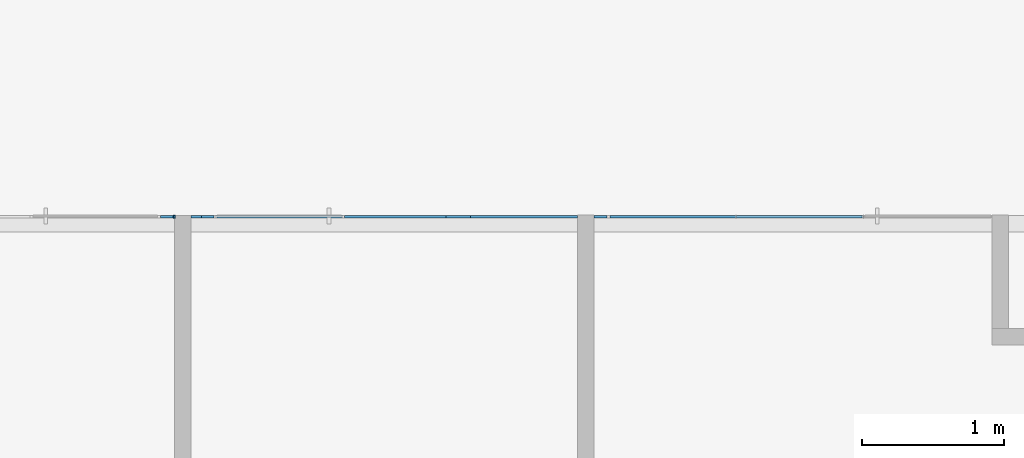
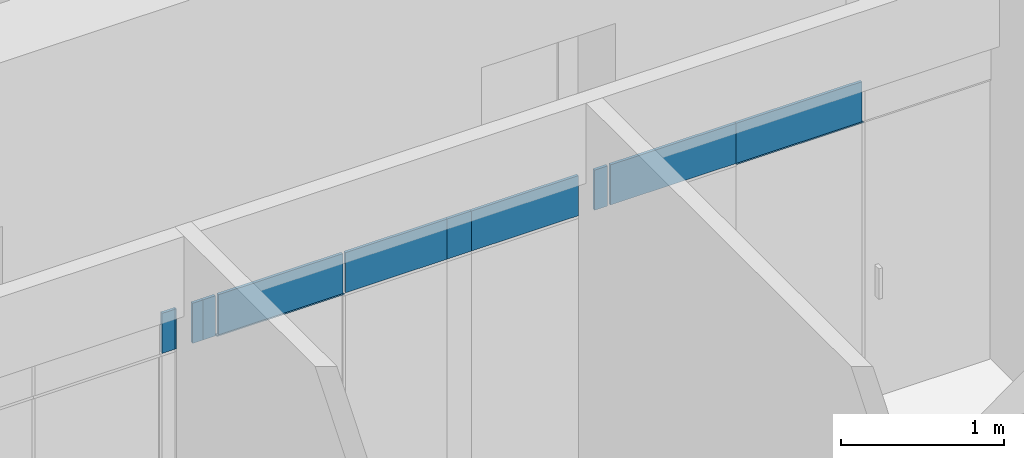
# One storey, part 41 of 73: 13 plates, 3 elements without a shape of their own.
"""IFC2X3 building model written with IfcOpenShell, lengths in millimetres."""

import ifcopenshell
import ifcopenshell.guid

model = None  # the IFC model being written
_history = None  # IfcOwnerHistory: only IFC2X3 demands one
_inside = {}  # id of a spatial element -> (the spatial element, [elements in it])
_under = {}  # id of a project, library or spatial element -> (it, [spatial elements below it])
_declared = {}  # id of a project -> (the project, [libraries it declares])
_typed = {}  # id of a type object -> (the type object, [elements of that type])
_made_of = {}  # id of a material, layer set ... -> (it, [elements and type objects made of it])


def new_model(schema):
    """Start an empty IFC model of exactly this schema.

    Asked for "IFC4X3", IfcOpenShell would pick the latest addendum, in which some entities
    have other attributes; the version numbers below select the first issue.
    IFC2X3 requires an IfcOwnerHistory on every rooted entity: one is made here for all.
    """
    global model, _history
    if schema == "IFC4X3":
        model = ifcopenshell.file(schema_version=(4, 3, 0, 0))
    else:
        model = ifcopenshell.file(schema=schema)
    _inside.clear()
    _under.clear()
    _declared.clear()
    _typed.clear()
    _made_of.clear()
    _history = None
    if model.schema == "IFC2X3":
        org = make("IfcOrganization", Name="unknown")
        user = make(
            "IfcPersonAndOrganization",
            ThePerson=make("IfcPerson", FamilyName="unknown"),
            TheOrganization=org,
        )
        app = make(
            "IfcApplication",
            ApplicationDeveloper=org,
            Version="unknown",
            ApplicationFullName="unknown",
            ApplicationIdentifier="unknown",
        )
        _history = make(
            "IfcOwnerHistory",
            OwningUser=user,
            OwningApplication=app,
            ChangeAction="ADDED",
            CreationDate=0,
        )
    return model


def make(cls, **values):
    """One entity of the class cls with the attributes given. An attribute that is None is left unset."""
    return model.create_entity(
        cls, **{name: value for name, value in values.items() if value is not None}
    )


def entity(cls, *values):
    """Any entity or typed value of the class cls, its attributes in the order of the schema. None: left unset."""
    e = model.create_entity(cls)
    for i, value in enumerate(values):
        if value is not None:
            e[i] = value
    return e


def rooted(cls, **values):
    """An entity with a GlobalId (a new one), such as an element, a storey or a relation."""
    return make(cls, GlobalId=ifcopenshell.guid.new(), OwnerHistory=_history, **values)


def si_unit(unit_type, name, prefix=None):
    """IfcSIUnit, for example si_unit("LENGTHUNIT", "METRE", prefix="MILLI")."""
    return make("IfcSIUnit", UnitType=unit_type, Prefix=prefix, Name=name)


def converted_unit(unit_type, name, factor, base, dimensions=None, offset=None):
    """IfcConversionBasedUnit, such as the inch: factor (a typed value) times the base unit."""
    return make(
        "IfcConversionBasedUnit"
        if offset is None
        else "IfcConversionBasedUnitWithOffset",
        ConversionOffset=offset,
        Dimensions=None
        if dimensions is None
        else entity("IfcDimensionalExponents", *dimensions),
        UnitType=unit_type,
        Name=name,
        ConversionFactor=make(
            "IfcMeasureWithUnit", ValueComponent=factor, UnitComponent=base
        ),
    )


def derived_unit(unit_type, elements):
    """IfcDerivedUnit: a product of units, each with its exponent."""
    return make(
        "IfcDerivedUnit",
        Elements=[
            make("IfcDerivedUnitElement", Unit=unit, Exponent=power)
            for unit, power in elements
        ],
        UnitType=unit_type,
    )


def assignment(units):
    """IfcUnitAssignment: the units of a project."""
    return None if units is None else make("IfcUnitAssignment", Units=units)


def point(xyz):
    """IfcCartesianPoint."""
    return None if xyz is None else make("IfcCartesianPoint", Coordinates=xyz)


def direction(xyz):
    """IfcDirection."""
    return None if xyz is None else make("IfcDirection", DirectionRatios=xyz)


def frame(location, z_axis=None, x_axis=None):
    """IfcAxis2Placement3D, a coordinate frame: its origin and axes. An axis left out is left unset."""
    return make(
        "IfcAxis2Placement3D",
        Location=point(location),
        Axis=direction(z_axis),
        RefDirection=direction(x_axis),
    )


def frame_2d(location, x_axis=None):
    """IfcAxis2Placement2D, a coordinate frame in the plane: its origin and x axis."""
    return make(
        "IfcAxis2Placement2D", Location=point(location), RefDirection=direction(x_axis)
    )


def origin():
    """The frame at (0, 0, 0) with its axes left unset."""
    return frame((0.0, 0.0, 0.0))


def origin_2d_with_axis():
    """The frame at (0, 0) in the plane with the x axis (1, 0) written out."""
    return frame_2d((0.0, 0.0), x_axis=(1.0, 0.0))


def place(relative_to, where):
    """IfcLocalPlacement: puts the frame where relative to a parent placement (None: the world)."""
    return make(
        "IfcLocalPlacement", PlacementRelTo=relative_to, RelativePlacement=where
    )


def context(
    kind, dimensions, precision=None, world=None, true_north=None, identifier=None
):
    """IfcGeometricRepresentationContext, for example the 3D "Model" context."""
    return make(
        "IfcGeometricRepresentationContext",
        ContextIdentifier=identifier,
        ContextType=kind,
        CoordinateSpaceDimension=dimensions,
        Precision=precision,
        WorldCoordinateSystem=world,
        TrueNorth=true_north,
    )


def subcontext(parent, identifier, kind, view, scale=None):
    """IfcGeometricRepresentationSubContext, for example "Body" below "Model"."""
    return make(
        "IfcGeometricRepresentationSubContext",
        ContextIdentifier=identifier,
        ContextType=kind,
        ParentContext=parent,
        TargetScale=scale,
        TargetView=view,
    )


def project(units=None, contexts=None):
    """IfcProject with its units and contexts."""
    return rooted(
        "IfcProject",
        Name="project",
        RepresentationContexts=contexts,
        UnitsInContext=assignment(units),
    )


def spatial(cls, under=None, at=None, **own):
    """A site, building, storey or space (cls), placed at a placement, below another one or the project."""
    s = rooted(cls, ObjectPlacement=at, **own)
    if under is not None:
        _under.setdefault(under.id(), (under, []))[1].append(s)
    return s


def profile(cls, at=None, kind="AREA", **sizes):
    """A parametric profile (cls). Its sizes go by their IFC names, for example OverallWidth=200.0."""
    return make(cls, ProfileType=kind, Position=at, **sizes)


def rectangle(**sizes):
    """IfcRectangleProfileDef."""
    return profile("IfcRectangleProfileDef", **sizes)


def extrude(swept, where, along, depth):
    """IfcExtrudedAreaSolid: the profile swept, set in the frame where, extruded along a direction by depth."""
    return make(
        "IfcExtrudedAreaSolid",
        SweptArea=swept,
        Position=where,
        ExtrudedDirection=direction(along),
        Depth=depth,
    )


def shape(context_of_items, identifier, shape_type, items):
    """IfcShapeRepresentation: the items that make up one representation, for example the "Body"."""
    return make(
        "IfcShapeRepresentation",
        ContextOfItems=context_of_items,
        RepresentationIdentifier=identifier,
        RepresentationType=shape_type,
        Items=items,
    )


def source(mapping_origin, context_of_items, identifier, shape_type, items):
    """IfcRepresentationMap: a shape defined once, which mapped items show again and again."""
    return make(
        "IfcRepresentationMap",
        MappingOrigin=mapping_origin,
        MappedRepresentation=shape(context_of_items, identifier, shape_type, items),
    )


def transform(
    local_origin,
    x_axis=None,
    y_axis=None,
    z_axis=None,
    scale=None,
    scale2=None,
    scale3=None,
    uniform=True,
):
    """IfcCartesianTransformationOperator3D, or its non-uniform kind. x_axis, y_axis, z_axis: its Axis1, 2, 3."""
    if uniform:
        return make(
            "IfcCartesianTransformationOperator3D",
            Axis1=direction(x_axis),
            Axis2=direction(y_axis),
            LocalOrigin=point(local_origin),
            Scale=scale,
            Axis3=direction(z_axis),
        )
    return make(
        "IfcCartesianTransformationOperator3DnonUniform",
        Axis1=direction(x_axis),
        Axis2=direction(y_axis),
        LocalOrigin=point(local_origin),
        Scale=scale,
        Axis3=direction(z_axis),
        Scale2=scale2,
        Scale3=scale3,
    )


def mapped(mapping_source, mapping_target):
    """IfcMappedItem: shows the shape of a source again, moved by a transform."""
    return make(
        "IfcMappedItem", MappingSource=mapping_source, MappingTarget=mapping_target
    )


def material(Name=None, Category=None):
    """IfcMaterial."""
    return make("IfcMaterial", Name=Name, Category=Category)


def layer(
    of_material, thickness, ventilated=None, Name=None, Category=None, Priority=None
):
    """IfcMaterialLayer: one layer of a wall or slab, of a material (None: an air gap)."""
    return make(
        "IfcMaterialLayer",
        Material=of_material,
        LayerThickness=thickness,
        IsVentilated=ventilated,
        Name=Name,
        Category=Category,
        Priority=Priority,
    )


def layer_set(layers, Name=None):
    """IfcMaterialLayerSet."""
    return make("IfcMaterialLayerSet", MaterialLayers=layers, LayerSetName=Name)


def layer_usage(for_layer_set, set_direction, sense, offset, extent=None):
    """IfcMaterialLayerSetUsage: how a layer set lies in its element."""
    return make(
        "IfcMaterialLayerSetUsage",
        ForLayerSet=for_layer_set,
        LayerSetDirection=set_direction,
        DirectionSense=sense,
        OffsetFromReferenceLine=offset,
        ReferenceExtent=extent,
    )


def made_of(thing, what):
    """Note that an element or type object is made of a material, layer set ...; save() writes the relation."""
    if what is not None:
        _made_of.setdefault(what.id(), (what, []))[1].append(thing)
    return thing


def type_object(cls, material=None, **own):
    """A type object (cls), such as IfcWallType, which elements share."""
    return made_of(rooted(cls, **own), material)


def type_shapes(of_type, sources):
    """Give a type object the sources (RepresentationMaps) that its elements show as mapped items."""
    of_type.RepresentationMaps = sources


def element(
    cls,
    number,
    at=None,
    inside=None,
    cuts=None,
    type_object=None,
    material=None,
    context=None,
    identifier="Body",
    shape_type=None,
    held_by="IfcProductDefinitionShape",
    body=None,
    shapes=None,
    **own,
):
    """One element of the class cls, such as IfcWall. Its Tag is "e" and its number.

    at: its placement. inside: the storey or other place that contains it. cuts: it is an
    opening in that element (IfcRelVoidsElement). A single representation is given by context,
    identifier, shape_type and body (its items); several are given by shapes. held_by: the class
    of the entity that holds the representations. save() writes the other relations.
    """
    e = rooted(cls, Tag="e%d" % number, ObjectPlacement=at, **own)
    if body is not None:
        shapes = [shape(context, identifier, shape_type, body)]
    if shapes is not None:
        e.Representation = make(held_by, Representations=shapes)
    if inside is not None:
        _inside.setdefault(inside.id(), (inside, []))[1].append(e)
    if cuts is not None:
        rooted(
            "IfcRelVoidsElement", RelatingBuildingElement=cuts, RelatedOpeningElement=e
        )
    if type_object is not None:
        _typed.setdefault(type_object.id(), (type_object, []))[1].append(e)
    return made_of(e, material)


def aggregate(whole, parts):
    """IfcRelAggregates: a whole, such as a stair, and the parts it consists of."""
    return rooted("IfcRelAggregates", RelatingObject=whole, RelatedObjects=parts)


def save(model, path):
    """Write the relations noted so far, then the file.

    IfcRelAggregates (storeys below a building ...), IfcRelContainedInSpatialStructure (elements
    in a storey), IfcRelDefinesByType, IfcRelAssociatesMaterial and IfcRelDeclares: one each for
    every whole, place, type object, material and project.
    """
    for whole, parts in _under.values():
        aggregate(whole, parts)
    for where, things in _inside.values():
        rooted(
            "IfcRelContainedInSpatialStructure",
            RelatedElements=things,
            RelatingStructure=where,
        )
    for kind, things in _typed.values():
        rooted("IfcRelDefinesByType", RelatedObjects=things, RelatingType=kind)
    for what, things in _made_of.values():
        rooted("IfcRelAssociatesMaterial", RelatedObjects=things, RelatingMaterial=what)
    for by, libraries in _declared.values():
        rooted("IfcRelDeclares", RelatingContext=by, RelatedDefinitions=libraries)
    model.write(path)


model = new_model("IFC2X3")

# Units and contexts
model_context = context("Model", 3, precision=0.01, world=origin(), true_north=direction((6.12303176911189e-17, 1.0)))
body_context = subcontext(model_context, "Body", "Model", "MODEL_VIEW")
ifc_project = project(units=[si_unit("LENGTHUNIT", "METRE", prefix="MILLI"), si_unit("AREAUNIT", "SQUARE_METRE"), si_unit("VOLUMEUNIT", "CUBIC_METRE"), converted_unit("PLANEANGLEUNIT", "DEGREE", entity("IfcRatioMeasure", 0.0174532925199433), si_unit("PLANEANGLEUNIT", "RADIAN"), dimensions=[0, 0, 0, 0, 0, 0, 0]), si_unit("MASSUNIT", "GRAM", prefix="KILO"), derived_unit("MASSDENSITYUNIT", [(si_unit("MASSUNIT", "GRAM", prefix="KILO"), 1), (si_unit("LENGTHUNIT", "METRE"), -3)]), si_unit("TIMEUNIT", "SECOND"), si_unit("FREQUENCYUNIT", "HERTZ"), si_unit("THERMODYNAMICTEMPERATUREUNIT", "DEGREE_CELSIUS"), derived_unit("THERMALTRANSMITTANCEUNIT", [(si_unit("MASSUNIT", "GRAM", prefix="KILO"), 1), (si_unit("THERMODYNAMICTEMPERATUREUNIT", "KELVIN"), -1), (si_unit("TIMEUNIT", "SECOND"), -3)]), derived_unit("VOLUMETRICFLOWRATEUNIT", [(si_unit("LENGTHUNIT", "METRE"), 3), (si_unit("TIMEUNIT", "SECOND"), -1)]), si_unit("ELECTRICCURRENTUNIT", "AMPERE"), si_unit("ELECTRICVOLTAGEUNIT", "VOLT"), si_unit("POWERUNIT", "WATT"), si_unit("FORCEUNIT", "NEWTON", prefix="KILO"), si_unit("ILLUMINANCEUNIT", "LUX"), si_unit("LUMINOUSFLUXUNIT", "LUMEN"), si_unit("LUMINOUSINTENSITYUNIT", "CANDELA"), derived_unit("USERDEFINED", [(si_unit("MASSUNIT", "GRAM", prefix="KILO"), -1), (si_unit("LENGTHUNIT", "METRE"), -2), (si_unit("TIMEUNIT", "SECOND"), 3), (si_unit("LUMINOUSFLUXUNIT", "LUMEN"), 1)]), derived_unit("LINEARVELOCITYUNIT", [(si_unit("LENGTHUNIT", "METRE"), 1), (si_unit("TIMEUNIT", "SECOND"), -1)]), si_unit("PRESSUREUNIT", "PASCAL"), derived_unit("USERDEFINED", [(si_unit("LENGTHUNIT", "METRE"), -2), (si_unit("MASSUNIT", "GRAM", prefix="KILO"), 1), (si_unit("TIMEUNIT", "SECOND"), -2)])], contexts=[model_context])

# Site, building, storey
site_placement = place(None, frame((-151.875543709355, 2715.0, 0.0)))
site = spatial("IfcSite", under=ifc_project, at=site_placement, Name="Surface", CompositionType="ELEMENT")
building_placement = place(site_placement, origin())
building = spatial("IfcBuilding", under=site, at=building_placement, CompositionType="ELEMENT")
storey_placement = place(building_placement, frame((0.0, 0.0, 6730.43000000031)))
storey = spatial("IfcBuildingStorey", under=building, at=storey_placement, Name="3 korrus", CompositionType="ELEMENT", Elevation=6730.43000000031)

# Curtain wall, plates
curtain_wall_type_1 = type_object("IfcCurtainWallType", Name="Curtain Wall:Klaassein KLS-18", PredefinedType="NOTDEFINED")
curtain_wall_1_placement = place(storey_placement, frame((0.0, 0.0, -6730.43000000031)))
curtain_wall_1 = element("IfcCurtainWall", 1, at=curtain_wall_1_placement, inside=storey, type_object=curtain_wall_type_1, Name="Curtain Wall:Klaassein KLS-18", ObjectType="Curtain Wall:Klaassein KLS-18")
ifc_material = material(Name="<Unnamed>")
ifc_layer = layer(ifc_material, 20.0)
ifc_layer_set = layer_set([ifc_layer], Name="Curtain Wall:Klaassein KLS-01")
ifc_layer_usage_1 = layer_usage(ifc_layer_set, "AXIS3", "POSITIVE", 0.0)
plate_type_1 = type_object("IfcPlateType", Name="Glazed", PredefinedType="CURTAIN_PANEL", material=ifc_layer_set)
shared_shape_1 = source(origin(), body_context, "Body", "SweptSolid", [
    extrude(rectangle(XDim=20.0, YDim=900.000000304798, at=origin_2d_with_axis()), frame((0.0, 0.0, 0.0), z_axis=(0.0, 0.0, 1.0), x_axis=(0.0, 1.0, 0.0)), (0.0, 0.0, 1.0), 9.99999999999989),
])
type_shapes(plate_type_1, [shared_shape_1])
plate_1_placement = place(curtain_wall_1_placement, frame((16139.4201096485, 4355.04493399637, 8820.43000000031)))
plate_1 = element("IfcPlate", 2, at=plate_1_placement, type_object=plate_type_1, material=ifc_layer_usage_1, Name="System Panel:Glazed", ObjectType="Glazed", context=body_context, shape_type="MappedRepresentation", body=[
    mapped(shared_shape_1, transform((0.0, 0.0, 0.0), scale=1.0)),
])
ifc_layer_usage_2 = layer_usage(ifc_layer_set, "AXIS3", "POSITIVE", 0.0)
plate_type_2 = type_object("IfcPlateType", Name="Glazed", PredefinedType="CURTAIN_PANEL", material=ifc_layer_set)
shared_shape_2 = source(origin(), body_context, "Body", "SweptSolid", [
    extrude(rectangle(XDim=20.0, YDim=879.999999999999, at=origin_2d_with_axis()), frame((0.0, 0.0, 0.0), z_axis=(0.0, 0.0, 1.0), x_axis=(0.0, 1.0, 0.0)), (0.0, 0.0, 1.0), 299.999999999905),
])
type_shapes(plate_type_2, [shared_shape_2])
plate_2_placement = place(curtain_wall_1_placement, frame((16139.4201096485, 4355.04493399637, 8830.43000000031)))
plate_2 = element("IfcPlate", 3, at=plate_2_placement, type_object=plate_type_2, material=ifc_layer_usage_2, Name="System Panel:Glazed", ObjectType="Glazed", context=body_context, shape_type="MappedRepresentation", body=[
    mapped(shared_shape_2, transform((0.0, 0.0, 0.0), scale=1.0)),
])

curtain_wall_type_2 = type_object("IfcCurtainWallType", Name="Curtain Wall:Klaassein KLS-19", PredefinedType="NOTDEFINED")
curtain_wall_2_placement = place(storey_placement, frame((0.0, 0.0, -6730.43000000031)))
curtain_wall_2 = element("IfcCurtainWall", 4, at=curtain_wall_2_placement, inside=storey, type_object=curtain_wall_type_2, Name="Curtain Wall:Klaassein KLS-19", ObjectType="Curtain Wall:Klaassein KLS-19")
ifc_layer_usage_3 = layer_usage(ifc_layer_set, "AXIS3", "POSITIVE", 0.0)
plate_type_3 = type_object("IfcPlateType", Name="Glazed", PredefinedType="CURTAIN_PANEL", material=ifc_layer_set)
shared_shape_3 = source(origin(), body_context, "Body", "SweptSolid", [
    extrude(rectangle(XDim=20.0, YDim=899.000000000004, at=origin_2d_with_axis()), frame((0.0, 0.0, 0.0), z_axis=(0.0, 0.0, 1.0), x_axis=(0.0, 1.0, 0.0)), (0.0, 0.0, 1.0), 9.99999999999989),
])
type_shapes(plate_type_3, [shared_shape_3])
plate_3_placement = place(curtain_wall_2_placement, frame((19812.5647261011, 4355.04493399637, 8820.43000000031), z_axis=(0.0, 0.0, 1.0), x_axis=(-1.0, 0.0, 0.0)))
plate_3 = element("IfcPlate", 5, at=plate_3_placement, type_object=plate_type_3, material=ifc_layer_usage_3, Name="System Panel:Glazed", ObjectType="Glazed", context=body_context, shape_type="MappedRepresentation", body=[
    mapped(shared_shape_3, transform((0.0, 0.0, 0.0), scale=1.0)),
])
ifc_layer_usage_4 = layer_usage(ifc_layer_set, "AXIS3", "POSITIVE", 0.0)
plate_type_4 = type_object("IfcPlateType", Name="Glazed", PredefinedType="CURTAIN_PANEL", material=ifc_layer_set)
shared_shape_4 = source(origin(), body_context, "Body", "SweptSolid", [
    extrude(rectangle(XDim=299.999999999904, YDim=889.999999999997, at=frame_2d((0.0, -148.000000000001), x_axis=(1.0, 0.0))), frame((148.0, -10.0, 150.0), z_axis=(0.0, 1.0, 0.0), x_axis=(0.0, 0.0, 1.0)), (0.0, 0.0, 1.0), 20.0),
])
type_shapes(plate_type_4, [shared_shape_4])
plate_4_placement = place(curtain_wall_2_placement, frame((19807.0647261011, 4355.04493399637, 8830.43000000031), z_axis=(0.0, 0.0, 1.0), x_axis=(-1.0, 0.0, 0.0)))
plate_4 = element("IfcPlate", 6, at=plate_4_placement, type_object=plate_type_4, material=ifc_layer_usage_4, Name="System Panel:Glazed", ObjectType="Glazed", context=body_context, shape_type="MappedRepresentation", body=[
    mapped(shared_shape_4, transform((0.0, 0.0, 0.0), scale=1.0)),
])
ifc_layer_usage_5 = layer_usage(ifc_layer_set, "AXIS3", "POSITIVE", 0.0)
plate_type_5 = type_object("IfcPlateType", Name="Glazed", PredefinedType="CURTAIN_PANEL", material=ifc_layer_set)
shared_shape_5 = source(origin(), body_context, "Body", "SweptSolid", [
    extrude(rectangle(XDim=20.0, YDim=889.000000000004, at=origin_2d_with_axis()), frame((0.0, 0.0, 0.0), z_axis=(0.0, 0.0, 1.0), x_axis=(0.0, 1.0, 0.0)), (0.0, 0.0, 1.0), 299.999999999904),
])
type_shapes(plate_type_5, [shared_shape_5])
plate_5_placement = place(curtain_wall_2_placement, frame((18917.5647261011, 4355.04493399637, 8830.43000000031), z_axis=(0.0, 0.0, 1.0), x_axis=(-1.0, 0.0, 0.0)))
plate_5 = element("IfcPlate", 7, at=plate_5_placement, type_object=plate_type_5, material=ifc_layer_usage_5, Name="System Panel:Glazed", ObjectType="Glazed", context=body_context, shape_type="MappedRepresentation", body=[
    mapped(shared_shape_5, transform((0.0, 0.0, 0.0), scale=1.0)),
])
ifc_layer_usage_6 = layer_usage(ifc_layer_set, "AXIS3", "POSITIVE", 0.0)
plate_type_6 = type_object("IfcPlateType", Name="Glazed", PredefinedType="CURTAIN_PANEL", material=ifc_layer_set)
shared_shape_6 = source(origin(), body_context, "Body", "SweptSolid", [
    extrude(rectangle(XDim=20.0, YDim=91.9999996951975, at=origin_2d_with_axis()), frame((0.0, 0.0, 0.0), z_axis=(0.0, 0.0, 1.0), x_axis=(0.0, 1.0, 0.0)), (0.0, 0.0, 1.0), 299.999999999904),
])
type_shapes(plate_type_6, [shared_shape_6])
plate_6_placement = place(curtain_wall_2_placement, frame((18407.0647262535, 4355.04493399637, 8830.43000000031), z_axis=(0.0, 0.0, 1.0), x_axis=(-1.0, 0.0, 0.0)))
plate_6 = element("IfcPlate", 8, at=plate_6_placement, type_object=plate_type_6, material=ifc_layer_usage_6, Name="System Panel:Glazed", ObjectType="Glazed", context=body_context, shape_type="MappedRepresentation", body=[
    mapped(shared_shape_6, transform((0.0, 0.0, 0.0), scale=1.0)),
])
aggregate(curtain_wall_2, [plate_3, plate_4, plate_5, plate_6])

# Plate
ifc_layer_usage_7 = layer_usage(ifc_layer_set, "AXIS3", "POSITIVE", 0.0)
plate_type_7 = type_object("IfcPlateType", Name="Glazed", PredefinedType="CURTAIN_PANEL", material=ifc_layer_set)
shared_shape_7 = source(origin(), body_context, "Body", "SweptSolid", [
    extrude(rectangle(XDim=20.0, YDim=71.8553832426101, at=origin_2d_with_axis()), frame((0.0, 0.0, 0.0), z_axis=(0.0, 0.0, 1.0), x_axis=(0.0, 1.0, 0.0)), (0.0, 0.0, 1.0), 299.999999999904),
])
type_shapes(plate_type_7, [shared_shape_7])
plate_7_placement = place(curtain_wall_1_placement, frame((15553.4924180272, 4355.04493399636, 8830.43000000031)))
plate_7 = element("IfcPlate", 9, at=plate_7_placement, type_object=plate_type_7, material=ifc_layer_usage_7, Name="System Panel:Glazed", ObjectType="Glazed", context=body_context, shape_type="MappedRepresentation", body=[
    mapped(shared_shape_7, transform((0.0, 0.0, 0.0), scale=1.0)),
])

ifc_layer_usage_8 = layer_usage(ifc_layer_set, "AXIS3", "POSITIVE", 0.0)
plate_type_8 = type_object("IfcPlateType", Name="Glazed", PredefinedType="CURTAIN_PANEL", material=ifc_layer_set)
shared_shape_8 = source(origin(), body_context, "Body", "SweptSolid", [
    extrude(rectangle(XDim=20.0, YDim=89.999999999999, at=origin_2d_with_axis()), frame((0.0, 0.0, 0.0), z_axis=(0.0, 0.0, 1.0), x_axis=(0.0, 1.0, 0.0)), (0.0, 0.0, 1.0), 299.999999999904),
])
type_shapes(plate_type_8, [shared_shape_8])
plate_8_placement = place(curtain_wall_1_placement, frame((15634.4201096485, 4355.04493399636, 8830.43000000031)))
plate_8 = element("IfcPlate", 10, at=plate_8_placement, type_object=plate_type_8, material=ifc_layer_usage_8, Name="System Panel:Glazed", ObjectType="Glazed", context=body_context, shape_type="MappedRepresentation", body=[
    mapped(shared_shape_8, transform((0.0, 0.0, 0.0), scale=1.0)),
])

# Curtain wall, plate
curtain_wall_type_3 = type_object("IfcCurtainWallType", Name="Curtain Wall:Klaassein KLS-17", PredefinedType="NOTDEFINED")
curtain_wall_3_placement = place(storey_placement, frame((0.0, 0.0, -6730.43000000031)))
curtain_wall_3 = element("IfcCurtainWall", 11, at=curtain_wall_3_placement, inside=storey, type_object=curtain_wall_type_3, Name="Curtain Wall:Klaassein KLS-17", ObjectType="Curtain Wall:Klaassein KLS-17")
ifc_layer_usage_9 = layer_usage(ifc_layer_set, "AXIS3", "POSITIVE", 0.0)
plate_9_placement = place(curtain_wall_3_placement, frame((15346.5647264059, 4355.04493399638, 8830.43000000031)))
plate_9 = element("IfcPlate", 12, at=plate_9_placement, type_object=plate_type_8, material=ifc_layer_usage_9, Name="System Panel:Glazed", ObjectType="Glazed", context=body_context, shape_type="MappedRepresentation", body=[
    mapped(shared_shape_8, transform((0.0, 0.0, 0.0), scale=1.0)),
])

# Plate
ifc_layer_usage_10 = layer_usage(ifc_layer_set, "AXIS3", "POSITIVE", 0.0)
plate_type_9 = type_object("IfcPlateType", Name="Glazed", PredefinedType="CURTAIN_PANEL", material=ifc_layer_set)
shared_shape_9 = source(origin(), body_context, "Body", "SweptSolid", [
    extrude(rectangle(XDim=20.0, YDim=718.144617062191, at=origin_2d_with_axis()), frame((0.0, 0.0, 0.0), z_axis=(0.0, 0.0, 1.0), x_axis=(0.0, 1.0, 0.0)), (0.0, 0.0, 1.0), 299.999999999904),
])
type_shapes(plate_type_9, [shared_shape_9])
plate_10_placement = place(curtain_wall_1_placement, frame((16958.4924181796, 4355.04493399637, 8830.43000000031)))
plate_10 = element("IfcPlate", 13, at=plate_10_placement, type_object=plate_type_9, material=ifc_layer_usage_10, Name="System Panel:Glazed", ObjectType="Glazed", context=body_context, shape_type="MappedRepresentation", body=[
    mapped(shared_shape_9, transform((0.0, 0.0, 0.0), scale=1.0)),
])

ifc_layer_usage_11 = layer_usage(ifc_layer_set, "AXIS3", "POSITIVE", 0.0)
plate_type_10 = type_object("IfcPlateType", Name="Glazed", PredefinedType="CURTAIN_PANEL", material=ifc_layer_set)
shared_shape_10 = source(origin(), body_context, "Body", "SweptSolid", [
    extrude(rectangle(XDim=20.0, YDim=171.855382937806, at=origin_2d_with_axis()), frame((0.0, 0.0, 0.0), z_axis=(0.0, 0.0, 1.0), x_axis=(0.0, 1.0, 0.0)), (0.0, 0.0, 1.0), 299.999999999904),
])
type_shapes(plate_type_10, [shared_shape_10])
plate_11_placement = place(curtain_wall_1_placement, frame((17403.4924181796, 4355.04493399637, 8830.43000000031)))
plate_11 = element("IfcPlate", 14, at=plate_11_placement, type_object=plate_type_10, material=ifc_layer_usage_11, Name="System Panel:Glazed", ObjectType="Glazed", context=body_context, shape_type="MappedRepresentation", body=[
    mapped(shared_shape_10, transform((0.0, 0.0, 0.0), scale=1.0)),
])

ifc_layer_usage_12 = layer_usage(ifc_layer_set, "AXIS3", "POSITIVE", 0.0)
plate_type_11 = type_object("IfcPlateType", Name="Glazed", PredefinedType="CURTAIN_PANEL", material=ifc_layer_set)
shared_shape_11 = source(origin(), body_context, "Body", "SweptSolid", [
    extrude(rectangle(XDim=20.0, YDim=755.644616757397, at=origin_2d_with_axis()), frame((0.0, 0.0, 0.0), z_axis=(0.0, 0.0, 1.0), x_axis=(0.0, 1.0, 0.0)), (0.0, 0.0, 1.0), 299.999999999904),
])
type_shapes(plate_type_11, [shared_shape_11])
plate_12_placement = place(curtain_wall_1_placement, frame((17867.2424180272, 4355.04493399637, 8830.43000000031)))
plate_12 = element("IfcPlate", 15, at=plate_12_placement, type_object=plate_type_11, material=ifc_layer_usage_12, Name="System Panel:Glazed", ObjectType="Glazed", context=body_context, shape_type="MappedRepresentation", body=[
    mapped(shared_shape_11, transform((0.0, 0.0, 0.0), scale=1.0)),
])

aggregate(curtain_wall_1, [plate_1, plate_7, plate_8, plate_2, plate_10, plate_11, plate_12])

ifc_layer_usage_13 = layer_usage(ifc_layer_set, "AXIS3", "POSITIVE", 0.0)
plate_type_12 = type_object("IfcPlateType", Name="Glazed", PredefinedType="CURTAIN_PANEL", material=ifc_layer_set)
shared_shape_12 = source(origin(), body_context, "Body", "SweptSolid", [
    extrude(rectangle(XDim=20.0, YDim=11.9999999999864, at=origin_2d_with_axis()), frame((0.0, 0.0, 0.0), z_axis=(0.0, 0.0, 1.0), x_axis=(0.0, 1.0, 0.0)), (0.0, 0.0, 1.0), 299.999999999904),
])
type_shapes(plate_type_12, [shared_shape_12])
plate_13_placement = place(curtain_wall_3_placement, frame((15397.5647264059, 4355.04493399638, 8830.43000000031)))
plate_13 = element("IfcPlate", 16, at=plate_13_placement, type_object=plate_type_12, material=ifc_layer_usage_13, Name="System Panel:Glazed", ObjectType="Glazed", context=body_context, shape_type="MappedRepresentation", body=[
    mapped(shared_shape_12, transform((0.0, 0.0, 0.0), scale=1.0)),
])

aggregate(curtain_wall_3, [plate_9, plate_13])

save(model, "model.ifc")
